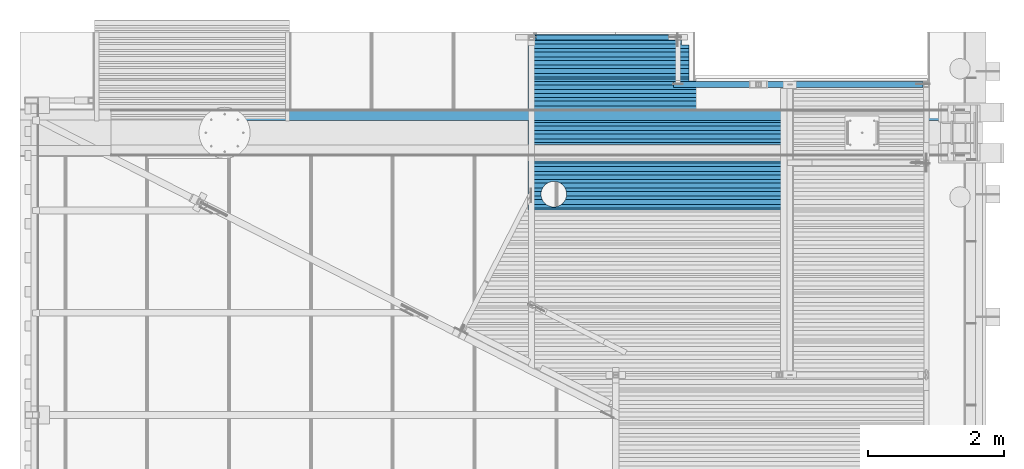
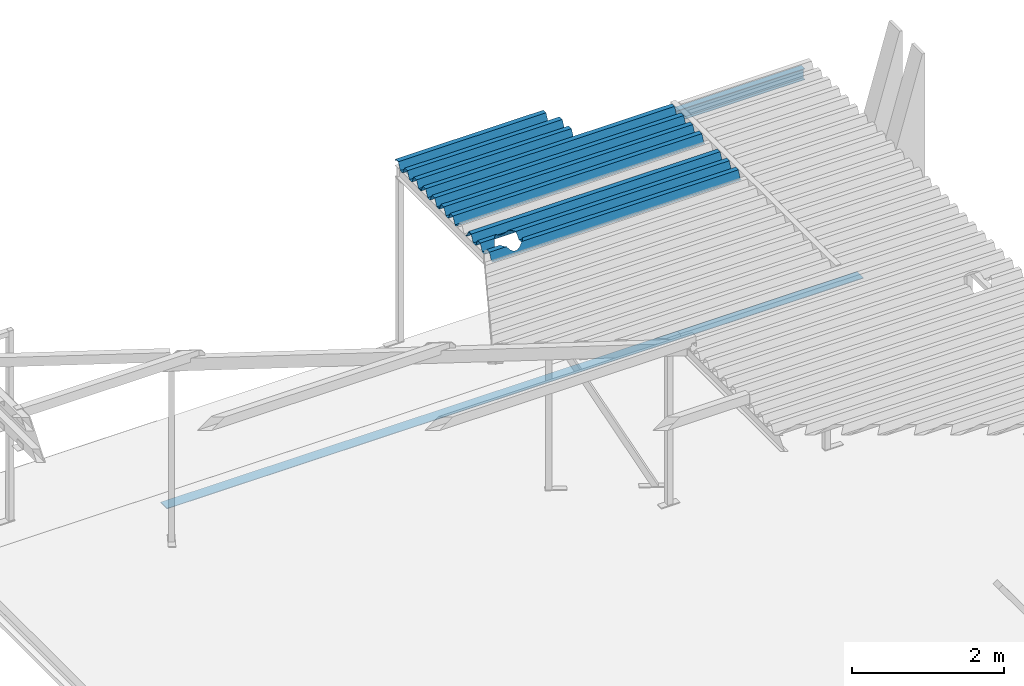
# One storey, part 13 of 30: 7 beams.
"""IFC2X3 building model written with IfcOpenShell, lengths in millimetres."""

from ifc_helpers import new_model, entity, si_unit, converted_unit, derived_unit, direction, frame, origin_with_axes, place, context, subcontext, project, spatial, faceted_brep, material, type_object, element, save


model = new_model("IFC2X3")

# Units and contexts
model_context = context("Model", 3, precision=0.01, world=frame((0.0, 4.29681676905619e-09, 0.0)), true_north=direction((4.01073788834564e-13, 1.0)))
plan_context = context("Plan", 3, precision=0.01, world=frame((0.0, 4.29681676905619e-09, 0.0)), true_north=direction((4.01073788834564e-13, 1.0)))
body_context = subcontext(model_context, "Body", "Model", "MODEL_VIEW")
ifc_project = project(units=[converted_unit("PLANEANGLEUNIT", "DEGREE", entity("IfcPositiveLengthMeasure", 0.0174532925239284), si_unit("PLANEANGLEUNIT", "RADIAN"), dimensions=[0, 0, 0, 0, 0, 0, 0]), si_unit("AREAUNIT", "SQUARE_METRE"), si_unit("LENGTHUNIT", "METRE", prefix="MILLI"), si_unit("MASSUNIT", "GRAM", prefix="KILO"), si_unit("POWERUNIT", "WATT"), si_unit("PRESSUREUNIT", "PASCAL"), si_unit("FORCEUNIT", "NEWTON", prefix="KILO"), si_unit("ELECTRICVOLTAGEUNIT", "VOLT"), si_unit("ELECTRICCURRENTUNIT", "AMPERE"), si_unit("THERMODYNAMICTEMPERATUREUNIT", "DEGREE_CELSIUS"), si_unit("TIMEUNIT", "SECOND"), si_unit("VOLUMEUNIT", "CUBIC_METRE"), derived_unit("LINEARVELOCITYUNIT", [(si_unit("LENGTHUNIT", "METRE"), 1), (si_unit("TIMEUNIT", "SECOND"), -1)]), derived_unit("VOLUMETRICFLOWRATEUNIT", [(si_unit("VOLUMEUNIT", "CUBIC_METRE"), 1), (si_unit("TIMEUNIT", "SECOND"), -1)]), derived_unit("THERMALTRANSMITTANCEUNIT", [(si_unit("POWERUNIT", "WATT"), 1), (si_unit("THERMODYNAMICTEMPERATUREUNIT", "KELVIN"), -1), (si_unit("AREAUNIT", "SQUARE_METRE"), -1)]), derived_unit("SOUNDPRESSUREUNIT", [(si_unit("PRESSUREUNIT", "PASCAL"), 1)])], contexts=[model_context, plan_context])

# Site, building, storey
site_placement = place(None, frame((0.0, -4.29681676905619e-09, 0.0), z_axis=(0.0, 0.0, 1.0), x_axis=(1.0, 0.0, 0.0)))
site = spatial("IfcSite", under=ifc_project, at=site_placement, Name="Gardermoen", CompositionType="ELEMENT")
building_placement = place(site_placement, frame((0.0, 4.29681676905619e-09, 0.0), z_axis=(0.0, 0.0, 1.0), x_axis=(1.0, 0.0, 0.0)))
building = spatial("IfcBuilding", under=site, at=building_placement, Name="TI", CompositionType="ELEMENT")
storey_placement = place(building_placement, origin_with_axes())
storey = spatial("IfcBuildingStorey", under=building, at=storey_placement, Name="F", CompositionType="ELEMENT", Elevation=0.0)

# Beams
ifc_material_1 = material(Name="STEEL/S355J2H")
beam_type_1 = type_object("IfcBeamType", Name="IPE140", PredefinedType="NOTDEFINED")
beam_1_placement = place(storey_placement, frame((607720.006545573, 699400.498014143, 213629.999913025), z_axis=(-9.81579360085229e-08, -1.56462793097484e-13, 0.999999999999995), x_axis=(-0.999999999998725, -1.59399025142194e-06, -9.81579360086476e-08)))
element("IfcBeam", 1, at=beam_1_placement, inside=storey, type_object=beam_type_1, material=ifc_material_1, Name="STÅLBJELKE", ObjectType="IPE140", context=body_context, shape_type="Brep", body=[
    faceted_brep([(2156.60277032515, -36.5000000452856, 70.0000000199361), (2156.60277040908, -36.5000000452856, 63.0999999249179), (2156.60280271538, -2.34999994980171, 63.0999999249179), (2156.60280716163, 2.34999985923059, 63.0999999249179), (2156.60283946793, 36.4999999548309, 63.0999999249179), (2156.602839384, 36.4999999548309, 70.0000000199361), (2164.60280281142, -2.34999994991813, 54.9998111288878), (2164.60280725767, 2.34999985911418, 54.9998111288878), (2204.45503564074, -2.34999995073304, 54.999811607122), (2204.45503564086, 2.34999985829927, 54.999811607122), (119.994253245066, -2.34999990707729, -63.0999999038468), (119.994216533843, -36.5000000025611, -63.0999999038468), (2132.09275589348, -36.5000000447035, -63.0999998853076), (2132.09279041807, -2.34999994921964, -63.0999998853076), (119.994216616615, -36.5000000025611, -69.999999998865), (2132.09275598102, -36.5000000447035, -69.9999999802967), (119.994295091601, 36.4999999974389, -69.999999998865), (2132.09282978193, 36.4999999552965, -69.9999999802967), (119.99429500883, 36.4999999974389, -63.0999999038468), (2132.09282969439, 36.4999999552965, -63.0999998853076), (119.994251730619, -2.34999990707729, 63.099999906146), (119.994215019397, -36.5000000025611, 63.099999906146), (119.994214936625, -36.5000000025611, 70.000000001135), (119.994293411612, 36.4999999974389, 70.000000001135), (119.994293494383, 36.4999999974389, 63.099999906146), (119.994256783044, 2.34999990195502, 63.099999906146), (119.994258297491, 2.34999990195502, -63.0999999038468), (2132.09279516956, 2.34999985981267, -63.0999998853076), (2140.09279507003, 2.34999985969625, -54.9999865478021), (2140.09279031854, -2.34999994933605, -54.9999865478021), (2204.45503564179, -2.34999995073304, -54.9999858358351), (2204.45503564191, 2.34999985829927, -54.9999858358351)], [[[0, 1, 2, 3, 4, 5]], [[6, 7, 3, 2]], [[8, 9, 7, 6]], [[10, 11, 12, 13]], [[11, 14, 15, 12]], [[14, 16, 17, 15]], [[16, 18, 19, 17]], [[14, 11, 10, 20, 21, 22, 23, 24, 25, 26, 18, 16]], [[18, 26, 27, 19]], [[12, 15, 17, 19, 27, 13]], [[13, 27, 28, 29]], [[30, 29, 28, 31]], [[2, 20, 10, 13, 29, 30, 8, 6]], [[21, 20, 2, 1]], [[22, 21, 1, 0]], [[23, 22, 0, 5]], [[24, 23, 5, 4]], [[25, 24, 4, 3]], [[31, 28, 27, 26, 25, 3, 7, 9]], [[30, 31, 9, 8]]]),
])
beam_type_2 = type_object("IfcBeamType", Name="PLANNJA111", PredefinedType="NOTDEFINED")
beam_2_placement = place(storey_placement, frame((605452.910438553, 699147.497611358, 213755.499847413), z_axis=(0.0, 0.0, 1.0), x_axis=(1.0, 0.0, 0.0)))
element("IfcBeam", 2, at=beam_2_placement, inside=storey, type_object=beam_type_2, material=ifc_material_1, Name="STÅLBJELKE", ObjectType="PLANNJA111", context=body_context, shape_type="Brep", body=[
    faceted_brep([(2247.09627961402, 204.000000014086, 55.7499999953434), (2247.09630524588, 151.866088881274, -54.7500000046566), (2247.09631068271, 141.998553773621, -54.7500000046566), (2247.09631065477, 141.998553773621, -55.7500000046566), (2247.09630486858, 152.500000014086, -55.7500000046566), (2247.09627923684, 204.633911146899, 54.7499999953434), (2247.09624026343, 275.366088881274, 54.7499999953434), (2247.09622950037, 293.000334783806, 17.3734799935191), (2247.09622956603, 293.000334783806, 19.7170810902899), (2247.09623994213, 276.000000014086, 55.7499999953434), (2357.09149587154, 141.998614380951, -54.7500000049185), (2357.09149587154, 141.998614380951, -55.7500000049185), (-2.44472175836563e-09, 275.366088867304, 54.75), (-1.28056854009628e-09, 204.633911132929, 54.75), (-4.54019755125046e-09, 152.500000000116, -55.75), (-3.49245965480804e-09, 87.5000000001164, -55.75), (1.39698386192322e-09, 35.3660888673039, 54.75), (2.56113708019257e-09, -35.3660888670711, 54.75), (-6.98491930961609e-10, -87.4999999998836, -55.75), (3.49245965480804e-10, -152.499999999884, -55.75), (5.23868948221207e-09, -204.633911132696, 54.75), (6.40284270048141e-09, -275.366088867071, 54.75), (3.14321368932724e-09, -327.499999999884, -55.75), (3.72529029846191e-09, -359.999999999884, -55.75), (3.72529029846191e-09, -359.999999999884, -54.75), (3.25962901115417e-09, -328.133911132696, -54.75), (6.40284270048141e-09, -275.999999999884, 55.75), (5.23868948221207e-09, -203.999999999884, 55.75), (4.65661287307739e-10, -151.866088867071, -54.75), (-5.82076609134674e-10, -88.1339111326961, -54.75), (2.56113708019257e-09, -35.9999999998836, 55.75), (1.39698386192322e-09, 36.0000000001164, 55.75), (-3.37604433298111e-09, 88.1339111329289, -54.75), (-4.42378222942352e-09, 151.866088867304, -54.75), (-1.28056854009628e-09, 204.000000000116, 55.75), (-2.44472175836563e-09, 276.000000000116, 55.75), (-3.02679836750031e-09, 292.999096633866, 19.7197053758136), (-2.79396772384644e-09, 292.999096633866, 17.3761042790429), (2357.09149587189, 87.5000000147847, -55.7500000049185), (2357.09149586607, 35.3660888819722, 54.7499999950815), (2357.09149586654, -35.3660888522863, 54.7499999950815), (2357.09149587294, -87.4999999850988, -55.7500000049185), (2357.09149587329, -152.499999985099, -55.7500000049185), (2357.09149586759, -204.633911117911, 54.7499999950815), (2357.09149586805, -275.366088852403, 54.7499999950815), (2357.09149587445, -327.499999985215, -55.7500000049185), (2357.09149587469, -359.999999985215, -55.7500000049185), (2357.09149587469, -359.999999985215, -54.7500000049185), (2357.09149587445, -328.133911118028, -54.7500000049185), (2357.09149586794, -275.999999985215, 55.7499999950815), (2357.09149586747, -203.999999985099, 55.7499999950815), (2357.09149587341, -151.866088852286, -54.7500000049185), (2357.09149587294, -88.1339111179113, -54.7500000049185), (2357.09149586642, -35.9999999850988, 55.7499999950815), (2357.09149586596, 36.0000000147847, 55.7499999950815), (2357.09149587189, 88.1339111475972, -54.7500000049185)], [[[0, 1, 2, 3, 4, 5, 6, 7, 8, 9]], [[10, 11, 3, 2]], [[12, 13, 14, 15, 16, 17, 18, 19, 20, 21, 22, 23, 24, 25, 26, 27, 28, 29, 30, 31, 32, 33, 34, 35, 36, 37]], [[16, 15, 38, 39]], [[17, 16, 39, 40]], [[18, 17, 40, 41]], [[19, 18, 41, 42]], [[20, 19, 42, 43]], [[21, 20, 43, 44]], [[22, 21, 44, 45]], [[23, 22, 45, 46]], [[24, 23, 46, 47]], [[25, 24, 47, 48]], [[26, 25, 48, 49]], [[27, 26, 49, 50]], [[28, 27, 50, 51]], [[29, 28, 51, 52]], [[30, 29, 52, 53]], [[31, 30, 53, 54]], [[32, 31, 54, 55]], [[1, 33, 32, 55, 10, 2]], [[34, 33, 1, 0]], [[35, 34, 0, 9]], [[36, 35, 9, 8]], [[37, 36, 8, 7]], [[12, 37, 7, 6]], [[13, 12, 6, 5]], [[14, 13, 5, 4]], [[38, 15, 14, 4, 3, 11]], [[55, 54, 53, 52, 51, 50, 49, 48, 47, 46, 45, 44, 43, 42, 41, 40, 39, 38, 11, 10]]]),
])
beam_3_placement = place(storey_placement, frame((605452.91043944, 698667.497611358, 213755.499847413), z_axis=(0.0, 0.0, 1.0), x_axis=(1.0, 0.0, 0.0)))
element("IfcBeam", 3, at=beam_3_placement, inside=storey, type_object=beam_type_2, material=ifc_material_1, Name="STÅLBJELKE", ObjectType="PLANNJA111", context=body_context, shape_type="Brep", body=[
    faceted_brep([(2357.09116065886, 204.000000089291, 55.7499999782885), (2357.09110480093, 151.866088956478, -54.7500000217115), (2357.09104271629, 92.5116244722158, -54.7500000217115), (2357.0910427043, 92.5116244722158, -55.7500000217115), (2357.09110545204, 152.500000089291, -55.7500000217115), (2357.09116130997, 204.633911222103, 54.7499999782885), (2357.09123529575, 275.366088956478, 54.7499999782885), (2357.09128850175, 327.500000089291, -55.7500000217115), (2357.09132249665, 360.000000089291, -55.7500000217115), (2357.09132250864, 360.000000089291, -54.7500000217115), (2357.09128917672, 328.133911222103, -54.7500000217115), (2357.09123597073, 276.000000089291, 55.7499999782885), (3786.73213587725, 92.5119533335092, -54.7500000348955), (3786.73213587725, 92.5119533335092, -55.7500000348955), (-7.79982656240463e-09, 360.000000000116, -55.75), (-7.33416527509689e-09, 327.500000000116, -55.75), (-2.44472175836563e-09, 275.366088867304, 54.75), (-1.28056854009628e-09, 204.633911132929, 54.75), (-4.54019755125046e-09, 152.500000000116, -55.75), (-3.49245965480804e-09, 87.5000000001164, -55.75), (1.39698386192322e-09, 35.3660888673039, 54.75), (2.56113708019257e-09, -35.3660888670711, 54.75), (-6.98491930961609e-10, -87.4999999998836, -55.75), (3.49245965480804e-10, -152.499999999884, -55.75), (5.23868948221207e-09, -204.633911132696, 54.75), (6.40284270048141e-09, -275.366088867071, 54.75), (3.14321368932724e-09, -327.499999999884, -55.75), (3.72529029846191e-09, -359.999999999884, -55.75), (3.72529029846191e-09, -359.999999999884, -54.75), (3.25962901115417e-09, -328.133911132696, -54.75), (6.40284270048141e-09, -275.999999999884, 55.75), (5.23868948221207e-09, -203.999999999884, 55.75), (4.65661287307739e-10, -151.866088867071, -54.75), (-5.82076609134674e-10, -88.1339111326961, -54.75), (2.56113708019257e-09, -35.9999999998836, 55.75), (1.39698386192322e-09, 36.0000000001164, 55.75), (-3.37604433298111e-09, 88.1339111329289, -54.75), (-4.42378222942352e-09, 151.866088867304, -54.75), (-1.28056854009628e-09, 204.000000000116, 55.75), (-2.44472175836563e-09, 276.000000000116, 55.75), (-7.21774995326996e-09, 328.133911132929, -54.75), (-7.79982656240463e-09, 360.000000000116, -54.75), (3786.73213587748, 87.5000001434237, -55.7500000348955), (3786.73213588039, 35.3660890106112, 54.7499999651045), (3786.73213588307, -35.3660887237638, 54.7499999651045), (3786.73213588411, -87.4999998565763, -55.7500000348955), (3786.73213588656, -152.499999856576, -55.7500000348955), (3786.73213588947, -204.633910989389, 54.7499999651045), (3786.73213589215, -275.366088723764, 54.7499999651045), (3786.73213589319, -327.499999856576, -55.7500000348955), (3786.73213589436, -359.999999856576, -55.7500000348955), (3786.73213589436, -359.999999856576, -54.7500000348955), (3786.73213589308, -328.133910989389, -54.7500000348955), (3786.73213589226, -275.999999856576, 55.7499999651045), (3786.73213588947, -203.999999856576, 55.7499999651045), (3786.73213588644, -151.866088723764, -54.7500000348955), (3786.732135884, -88.1339109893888, -54.7500000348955), (3786.73213588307, -35.9999998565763, 55.7499999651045), (3786.73213588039, 36.0000001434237, 55.7499999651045), (3786.73213587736, 88.1339112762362, -54.7500000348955)], [[[0, 1, 2, 3, 4, 5, 6, 7, 8, 9, 10, 11]], [[12, 13, 3, 2]], [[14, 15, 16, 17, 18, 19, 20, 21, 22, 23, 24, 25, 26, 27, 28, 29, 30, 31, 32, 33, 34, 35, 36, 37, 38, 39, 40, 41]], [[20, 19, 42, 43]], [[21, 20, 43, 44]], [[22, 21, 44, 45]], [[23, 22, 45, 46]], [[24, 23, 46, 47]], [[25, 24, 47, 48]], [[26, 25, 48, 49]], [[27, 26, 49, 50]], [[28, 27, 50, 51]], [[29, 28, 51, 52]], [[30, 29, 52, 53]], [[31, 30, 53, 54]], [[32, 31, 54, 55]], [[33, 32, 55, 56]], [[34, 33, 56, 57]], [[35, 34, 57, 58]], [[36, 35, 58, 59]], [[1, 37, 36, 59, 12, 2]], [[38, 37, 1, 0]], [[39, 38, 0, 11]], [[40, 39, 11, 10]], [[41, 40, 10, 9]], [[14, 41, 9, 8]], [[15, 14, 8, 7]], [[16, 15, 7, 6]], [[17, 16, 6, 5]], [[18, 17, 5, 4]], [[42, 19, 18, 4, 3, 13]], [[59, 58, 57, 56, 55, 54, 53, 52, 51, 50, 49, 48, 47, 46, 45, 44, 43, 42, 13, 12]]]),
])
beam_4_placement = place(storey_placement, frame((605452.91043944, 698187.497611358, 213755.499847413), z_axis=(0.0, 0.0, 1.0), x_axis=(1.0, 0.0, 0.0)))
element("IfcBeam", 4, at=beam_4_placement, inside=storey, type_object=beam_type_2, material=ifc_material_1, Name="STÅLBJELKE", ObjectType="PLANNJA111", context=body_context, shape_type="Brep", body=[
    faceted_brep([(-7.79982656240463e-09, 360.000000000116, -54.75), (-7.21774995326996e-09, 328.133911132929, -54.75), (3786.73202978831, 328.13391127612, -54.7500000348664), (3786.73202978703, 360.000000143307, -54.7500000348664), (-2.44472175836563e-09, 276.000000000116, 55.75), (3786.73202979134, 276.000000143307, 55.7499999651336), (-1.28056854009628e-09, 204.000000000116, 55.75), (3786.73202979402, 204.000000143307, 55.7499999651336), (-4.42378222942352e-09, 151.866088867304, -54.75), (3786.73202979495, 151.866089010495, -54.7500000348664), (-3.37604433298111e-09, 88.1339111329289, -54.75), (3786.73202979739, 88.1339112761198, -54.7500000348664), (1.39698386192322e-09, 36.0000000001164, 55.75), (3786.73202980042, 36.0000001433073, 55.7499999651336), (2.56113708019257e-09, -35.9999999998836, 55.75), (3786.7320298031, -35.9999998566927, 55.7499999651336), (-5.82076609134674e-10, -88.1339111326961, -54.75), (3786.73202980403, -88.1339109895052, -54.7500000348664), (4.65661287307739e-10, -151.866088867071, -54.75), (3786.73202980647, -151.86608872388, -54.7500000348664), (5.23868948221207e-09, -203.999999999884, 55.75), (3786.7320298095, -203.999999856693, 55.7499999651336), (6.40284270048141e-09, -275.999999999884, 55.75), (3786.73202981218, -275.999999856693, 55.7499999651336), (3.25962901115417e-09, -328.133911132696, -54.75), (3786.73202981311, -328.133910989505, -54.7500000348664), (3.72529029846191e-09, -359.999999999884, -54.75), (3786.73202981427, -359.999999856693, -54.7500000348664), (3.72529029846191e-09, -359.999999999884, -55.75), (3786.73202981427, -359.999999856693, -55.7500000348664), (3.14321368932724e-09, -327.499999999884, -55.75), (3786.73202981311, -327.499999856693, -55.7500000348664), (6.40284270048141e-09, -275.366088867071, 54.75), (3786.73202981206, -275.36608872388, 54.7499999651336), (5.23868948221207e-09, -204.633911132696, 54.75), (3786.73202980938, -204.633910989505, 54.7499999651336), (3.49245965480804e-10, -152.499999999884, -55.75), (3786.73202980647, -152.499999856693, -55.7500000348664), (-6.98491930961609e-10, -87.4999999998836, -55.75), (3786.73202980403, -87.4999998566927, -55.7500000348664), (2.56113708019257e-09, -35.3660888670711, 54.75), (3786.73202980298, -35.3660887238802, 54.7499999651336), (1.39698386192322e-09, 35.3660888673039, 54.75), (3786.7320298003, 35.3660890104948, 54.7499999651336), (-3.49245965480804e-09, 87.5000000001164, -55.75), (3786.73202979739, 87.5000001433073, -55.7500000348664), (-4.54019755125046e-09, 152.500000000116, -55.75), (3786.73202979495, 152.500000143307, -55.7500000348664), (-1.28056854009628e-09, 204.633911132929, 54.75), (3786.7320297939, 204.63391127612, 54.7499999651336), (-2.44472175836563e-09, 275.366088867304, 54.75), (3786.73202979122, 275.366089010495, 54.7499999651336), (-7.33416527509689e-09, 327.500000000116, -55.75), (3786.73202978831, 327.500000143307, -55.7500000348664), (-7.79982656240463e-09, 360.000000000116, -55.75), (3786.73202978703, 360.000000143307, -55.7500000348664)], [[[0, 1, 2, 3]], [[1, 4, 5, 2]], [[4, 6, 7, 5]], [[6, 8, 9, 7]], [[8, 10, 11, 9]], [[10, 12, 13, 11]], [[12, 14, 15, 13]], [[14, 16, 17, 15]], [[16, 18, 19, 17]], [[18, 20, 21, 19]], [[20, 22, 23, 21]], [[22, 24, 25, 23]], [[24, 26, 27, 25]], [[26, 28, 29, 27]], [[28, 30, 31, 29]], [[30, 32, 33, 31]], [[32, 34, 35, 33]], [[34, 36, 37, 35]], [[36, 38, 39, 37]], [[38, 40, 41, 39]], [[40, 42, 43, 41]], [[42, 44, 45, 43]], [[44, 46, 47, 45]], [[46, 48, 49, 47]], [[48, 50, 51, 49]], [[50, 52, 53, 51]], [[52, 54, 55, 53]], [[54, 0, 3, 55]], [[5, 7, 9, 11, 13, 15, 17, 19, 21, 23, 25, 27, 29, 31, 33, 35, 37, 39, 41, 43, 45, 47, 49, 51, 53, 55, 3, 2]], [[54, 52, 50, 48, 46, 44, 42, 40, 38, 36, 34, 32, 30, 28, 26, 24, 22, 20, 18, 16, 14, 12, 10, 8, 6, 4, 1, 0]]]),
])
beam_5_placement = place(storey_placement, frame((605452.91043943, 697227.497611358, 213755.499847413), z_axis=(0.0, 0.0, 1.0), x_axis=(1.0, 0.0, 0.0)))
element("IfcBeam", 5, at=beam_5_placement, inside=storey, type_object=beam_type_2, material=ifc_material_1, Name="STÅLBJELKE", ObjectType="PLANNJA111", context=body_context, shape_type="Brep", body=[
    faceted_brep([(559.143832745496, -164.082669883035, -28.856446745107), (559.143832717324, -164.082669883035, -31.2000478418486), (548.474013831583, -199.256380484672, 43.3520994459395), (548.474013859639, -199.256380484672, 45.6957005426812), (545.59966552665, -204.633911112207, 54.7499999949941), (531.147161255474, -231.672659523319, 54.7499999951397), (531.147161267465, -231.672659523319, 55.7499999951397), (545.938497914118, -203.999999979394, 55.7499999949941), (507.829136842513, -260.085767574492, 54.7499999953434), (507.829136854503, -260.085767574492, 55.7499999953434), (489.210020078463, -275.366088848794, 54.749999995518), (479.416039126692, -283.403804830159, 37.7137255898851), (479.416039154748, -283.403804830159, 40.0573266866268), (488.437597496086, -275.99999998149, 55.749999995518), (446.999767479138, -300.730672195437, 0.988707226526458), (446.99976750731, -300.730672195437, 3.33230832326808), (411.826061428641, -311.400507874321, -21.6264547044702), (411.826061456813, -311.400507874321, -19.2828536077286), (375.246626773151, -315.00327606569, -29.2626722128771), (375.246626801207, -315.00327606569, -26.9190711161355), (338.667190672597, -311.400524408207, -21.6264897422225), (338.667190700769, -311.400524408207, -19.2828886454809), (303.493480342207, -300.730704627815, 0.988638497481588), (303.49348037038, -300.730704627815, 3.33223959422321), (271.077201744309, -283.403851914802, 37.7136258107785), (271.077201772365, -283.403851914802, 40.0572269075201), (261.283154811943, -275.366088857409, 54.7499999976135), (242.664093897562, -260.08582750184, 54.7499999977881), (242.664093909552, -260.08582750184, 55.7499999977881), (262.055578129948, -275.999999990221, 55.7499999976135), (219.346056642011, -231.672729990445, 54.7499999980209), (219.346056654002, -231.672729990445, 55.7499999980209), (204.893498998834, -204.633911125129, 54.7499999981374), (202.019189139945, -199.256458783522, 43.3522653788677), (202.019189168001, -199.256458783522, 45.6958664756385), (204.554666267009, -203.999999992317, 55.7499999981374), (191.349352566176, -164.082753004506, -31.1998716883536), (191.349352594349, -164.082753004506, -28.856270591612), (190.208548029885, -152.499999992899, -55.7500000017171), (187.746584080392, -127.503318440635, -55.750000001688), (187.746584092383, -127.503318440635, -54.750000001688), (190.146113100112, -151.866088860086, -54.7500000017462), (191.349335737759, -90.9238822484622, -55.7500000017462), (191.34933574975, -90.9238822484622, -54.7500000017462), (192.195663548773, -88.1339111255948, -54.7500000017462), (192.38795822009, -87.4999999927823, -55.7500000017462), (202.019156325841, -55.7501716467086, 11.545085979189), (202.019156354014, -55.7501716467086, 13.8886870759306), (212.575837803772, -35.9999999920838, 55.74999999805), (212.914670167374, -35.3660888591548, 54.74999999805), (219.346009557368, -23.3338926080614, 54.7499999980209), (219.346009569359, -23.3338926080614, 55.7499999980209), (242.664033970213, 5.07921544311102, 54.7499999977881), (242.664033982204, 5.07921544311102, 55.7499999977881), (271.077131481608, 28.3972526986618, 54.7499999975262), (271.077131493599, 28.3972526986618, 55.7499999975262), (285.300863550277, 36.0000000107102, 55.7499999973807), (284.114899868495, 35.3660888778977, 54.7499999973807), (303.493402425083, 45.7241200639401, 32.795720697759), (303.493402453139, 45.7241200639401, 35.1393217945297), (338.667107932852, 56.3939557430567, 10.1805587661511), (338.667107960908, 56.3939557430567, 12.5241598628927), (375.246542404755, 59.9967239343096, 2.54434125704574), (375.246542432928, 59.9967239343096, 4.88794235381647), (411.825978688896, 56.3939722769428, 10.180523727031), (411.825978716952, 56.3939722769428, 12.5241248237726), (446.999689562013, 45.7241524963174, 32.7956519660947), (446.999689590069, 45.7241524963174, 35.1392530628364), (465.192309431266, 36.0000000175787, 55.7499999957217), (466.37827437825, 35.3660888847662, 54.7499999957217), (479.415968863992, 28.3972997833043, 54.7499999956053), (479.415968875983, 28.3972997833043, 55.7499999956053), (507.829076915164, 5.07927537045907, 54.7499999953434), (507.829076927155, 5.07927537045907, 55.7499999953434), (531.147114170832, -23.3338221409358, 54.7499999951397), (531.147114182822, -23.3338221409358, 55.7499999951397), (537.917330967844, -35.9999999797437, 55.7499999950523), (537.578498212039, -35.3660888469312, 54.7499999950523), (548.47398101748, -55.7500933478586, 11.5452519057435), (548.473981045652, -55.7500933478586, 13.8888530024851), (558.29751193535, -88.1339111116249, -54.7500000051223), (558.105216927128, -87.4999999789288, -55.7500000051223), (559.143815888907, -90.9237991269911, -55.7500000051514), (559.143815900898, -90.9237991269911, -54.7500000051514), (562.746584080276, -127.50323369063, -55.7500000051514), (562.746584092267, -127.50323369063, -54.7500000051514), (560.284623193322, -152.499999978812, -55.7500000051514), (560.347057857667, -151.866088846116, -54.7500000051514), (-7.79982656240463e-09, 360.000000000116, -55.75), (-7.79982656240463e-09, 360.000000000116, -54.75), (3786.73181895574, 360.000000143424, -54.7500000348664), (3786.73181895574, 360.000000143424, -55.7500000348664), (-7.33416527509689e-09, 327.500000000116, -55.75), (3786.73181895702, 327.500000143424, -55.7500000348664), (-2.44472175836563e-09, 275.366088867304, 54.75), (3786.73181895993, 275.366089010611, 54.7499999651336), (-1.28056854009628e-09, 204.633911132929, 54.75), (3786.73181896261, 204.633911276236, 54.7499999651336), (-4.54019755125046e-09, 152.500000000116, -55.75), (3786.73181896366, 152.500000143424, -55.7500000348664), (-3.49245965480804e-09, 87.5000000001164, -55.75), (3786.7318189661, 87.5000001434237, -55.7500000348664), (5.23868948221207e-09, -203.999999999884, 55.75), (6.40284270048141e-09, -275.999999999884, 55.75), (4.65661287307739e-10, -151.866088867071, -54.75), (-5.82076609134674e-10, -88.1339111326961, -54.75), (2.56113708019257e-09, -35.9999999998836, 55.75), (1.39698386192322e-09, 36.0000000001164, 55.75), (1.39698386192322e-09, 35.3660888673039, 54.75), (2.56113708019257e-09, -35.3660888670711, 54.75), (-6.98491930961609e-10, -87.4999999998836, -55.75), (3.49245965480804e-10, -152.499999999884, -55.75), (5.23868948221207e-09, -204.633911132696, 54.75), (6.40284270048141e-09, -275.366088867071, 54.75), (3.14321368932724e-09, -327.499999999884, -55.75), (3.72529029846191e-09, -359.999999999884, -55.75), (3.72529029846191e-09, -359.999999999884, -54.75), (3.25962901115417e-09, -328.133911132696, -54.75), (-3.37604433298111e-09, 88.1339111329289, -54.75), (-4.42378222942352e-09, 151.866088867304, -54.75), (-1.28056854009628e-09, 204.000000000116, 55.75), (-2.44472175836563e-09, 276.000000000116, 55.75), (-7.21774995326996e-09, 328.133911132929, -54.75), (3786.73181898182, -327.499999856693, -55.7500000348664), (3786.73181898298, -359.999999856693, -55.7500000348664), (3786.73181898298, -359.999999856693, -54.7500000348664), (3786.73181898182, -328.133910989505, -54.7500000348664), (3786.73181898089, -275.999999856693, 55.7499999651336), (3786.73181897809, -203.999999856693, 55.7499999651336), (3786.73181897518, -151.86608872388, -54.7500000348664), (3786.73181897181, -35.9999998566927, 55.7499999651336), (3786.73181896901, 36.0000001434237, 55.7499999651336), (3786.73181897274, -88.1339109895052, -54.7500000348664), (3786.73181896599, 88.1339112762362, -54.7500000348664), (3786.73181896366, 151.866089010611, -54.7500000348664), (3786.73181896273, 204.000000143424, 55.7499999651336), (3786.73181895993, 276.000000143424, 55.7499999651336), (3786.73181895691, 328.133911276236, -54.7500000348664), (3786.73181898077, -275.36608872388, 54.7499999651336), (3786.73181897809, -204.633910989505, 54.7499999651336), (3786.73181897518, -152.499999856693, -55.7500000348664), (3786.73181897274, -87.4999998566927, -55.7500000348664), (3786.73181897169, -35.3660887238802, 54.7499999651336), (3786.73181896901, 35.3660890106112, 54.7499999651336)], [[[0, 1, 2, 3]], [[3, 2, 4, 5, 6, 7]], [[6, 5, 8, 9]], [[9, 8, 10, 11, 12, 13]], [[12, 11, 14, 15]], [[15, 14, 16, 17]], [[17, 16, 18, 19]], [[19, 18, 20, 21]], [[21, 20, 22, 23]], [[23, 22, 24, 25]], [[25, 24, 26, 27, 28, 29]], [[28, 27, 30, 31]], [[31, 30, 32, 33, 34, 35]], [[34, 33, 36, 37]], [[37, 36, 38, 39, 40, 41]], [[40, 39, 42, 43]], [[44, 43, 42, 45, 46, 47]], [[48, 47, 46, 49, 50, 51]], [[51, 50, 52, 53]], [[53, 52, 54, 55]], [[56, 55, 54, 57, 58, 59]], [[59, 58, 60, 61]], [[61, 60, 62, 63]], [[63, 62, 64, 65]], [[65, 64, 66, 67]], [[68, 67, 66, 69, 70, 71]], [[71, 70, 72, 73]], [[73, 72, 74, 75]], [[76, 75, 74, 77, 78, 79]], [[80, 79, 78, 81, 82, 83]], [[83, 82, 84, 85]], [[85, 84, 86, 1, 0, 87]], [[88, 89, 90, 91]], [[92, 88, 91, 93]], [[94, 92, 93, 95]], [[96, 94, 95, 97]], [[98, 96, 97, 99]], [[100, 98, 99, 101]], [[31, 35, 102, 103, 29, 28]], [[37, 41, 104, 102, 35, 34]], [[105, 104, 41, 40, 43, 44]], [[106, 105, 44, 47, 48]], [[107, 106, 48, 51, 53, 55, 56]], [[88, 92, 94, 96, 98, 100, 108, 109, 110, 111, 112, 113, 114, 115, 116, 117, 103, 102, 104, 105, 106, 107, 118, 119, 120, 121, 122, 89]], [[115, 114, 123, 124]], [[116, 115, 124, 125]], [[117, 116, 125, 126]], [[15, 17, 19, 21, 23, 25, 29, 103, 117, 126, 127, 13, 12]], [[9, 13, 127, 128, 7, 6]], [[3, 7, 128, 129, 87, 0]], [[130, 131, 68, 71, 73, 75, 76]], [[132, 130, 76, 79, 80]], [[129, 132, 80, 83, 85, 87]], [[131, 133, 118, 107, 56, 59, 61, 63, 65, 67, 68]], [[119, 118, 133, 134]], [[120, 119, 134, 135]], [[121, 120, 135, 136]], [[122, 121, 136, 137]], [[89, 122, 137, 90]], [[136, 135, 134, 133, 131, 130, 132, 129, 128, 127, 126, 125, 124, 123, 138, 139, 140, 141, 142, 143, 101, 99, 97, 95, 93, 91, 90, 137]], [[77, 142, 141, 81, 78]], [[72, 70, 69, 143, 142, 77, 74]], [[64, 62, 60, 58, 57, 108, 100, 101, 143, 69, 66]], [[52, 50, 49, 109, 108, 57, 54]], [[45, 110, 109, 49, 46]], [[39, 38, 111, 110, 45, 42]], [[112, 111, 38, 36, 33, 32]], [[113, 112, 32, 30, 27, 26]], [[138, 123, 114, 113, 26, 24, 22, 20, 18, 16, 14, 11, 10]], [[139, 138, 10, 8, 5, 4]], [[140, 139, 4, 2, 1, 86]], [[81, 141, 140, 86, 84, 82]]]),
])
beam_type_3 = type_object("IfcBeamType", Name="IPE180", PredefinedType="NOTDEFINED")
beam_6_placement = place(storey_placement, frame((607580.006246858, 698710.008844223, 213609.999885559), z_axis=(0.0, 0.0, 1.0), x_axis=(0.999999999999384, -1.10999957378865e-06, 0.0)))
element("IfcBeam", 6, at=beam_6_placement, inside=storey, type_object=beam_type_3, material=ifc_material_1, Name="STÅLBJELKE", ObjectType="IPE180", context=body_context, shape_type="Brep", body=[
    faceted_brep([(4.19095158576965e-09, 45.5000000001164, -90.0000000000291), (3.84170562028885e-09, 45.5000000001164, -82.0000000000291), (3659.63598642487, 45.4999998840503, -82.0), (3659.63598642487, 45.4999998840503, -90.0), (3.84170562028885e-09, 2.65000009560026, -82.0000000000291), (3659.63604037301, 2.64999997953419, -82.0), (-3.84170562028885e-09, 2.65000009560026, 81.9999999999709), (3659.63604037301, 2.64999997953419, 82.0), (-3.84170562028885e-09, 45.5000000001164, 82.0), (3659.63598642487, 45.4999998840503, 82.0), (-4.19095158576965e-09, 45.5000000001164, 90.0), (3659.63598642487, 45.4999998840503, 90.0), (-4.07453626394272e-09, -45.5, 89.9999999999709), (3659.63610099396, -45.5000001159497, 90.0), (-3.72529029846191e-09, -45.5, 81.9999999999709), (3659.63610099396, -45.5000001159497, 82.0), (-3.72529029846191e-09, -2.65000009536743, 81.9999999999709), (3659.6360470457, -2.65000021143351, 82.0), (3.95812094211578e-09, -2.65000009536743, -82.0000000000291), (3659.6360470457, -2.65000021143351, -82.0), (3.95812094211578e-09, -45.5, -82.0000000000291), (3659.63610099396, -45.5000001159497, -82.0), (4.30736690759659e-09, -45.5, -90.0000000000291), (3659.63610099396, -45.5000001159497, -90.0)], [[[0, 1, 2, 3]], [[1, 4, 5, 2]], [[4, 6, 7, 5]], [[6, 8, 9, 7]], [[8, 10, 11, 9]], [[10, 12, 13, 11]], [[12, 14, 15, 13]], [[14, 16, 17, 15]], [[16, 18, 19, 17]], [[18, 20, 21, 19]], [[20, 22, 23, 21]], [[22, 0, 3, 23]], [[5, 7, 9, 11, 13, 15, 17, 19, 21, 23, 3, 2]], [[22, 20, 18, 16, 14, 12, 10, 8, 6, 4, 1, 0]]]),
])
ifc_material_2 = material(Name="STEEL/S355")
beam_type_4 = type_object("IfcBeamType", Name="PL170*10", PredefinedType="NOTDEFINED")
beam_7_placement = place(storey_placement, frame((601260.000234, 698265.025625, 210410.0), z_axis=(0.0, 1.0, 0.0), x_axis=(1.0, 0.0, 0.0)))
element("IfcBeam", 7, at=beam_7_placement, inside=storey, type_object=beam_type_4, material=ifc_material_2, Name="STÅLBJELKE", ObjectType="PL170*10", context=body_context, shape_type="Brep", body=[
    faceted_brep([(0.0, 5.0, -85.0), (0.0, 5.0, 85.0), (10590.0, 5.0, 85.0), (10590.0, 5.0, -85.0), (0.0, -5.0, 85.0), (10590.0, -5.0, 85.0), (0.0, -5.0, -85.0), (10590.0, -5.0, -85.0)], [[[0, 1, 2, 3]], [[1, 4, 5, 2]], [[4, 6, 7, 5]], [[6, 0, 3, 7]], [[5, 7, 3, 2]], [[6, 4, 1, 0]]]),
])

save(model, "model.ifc")
